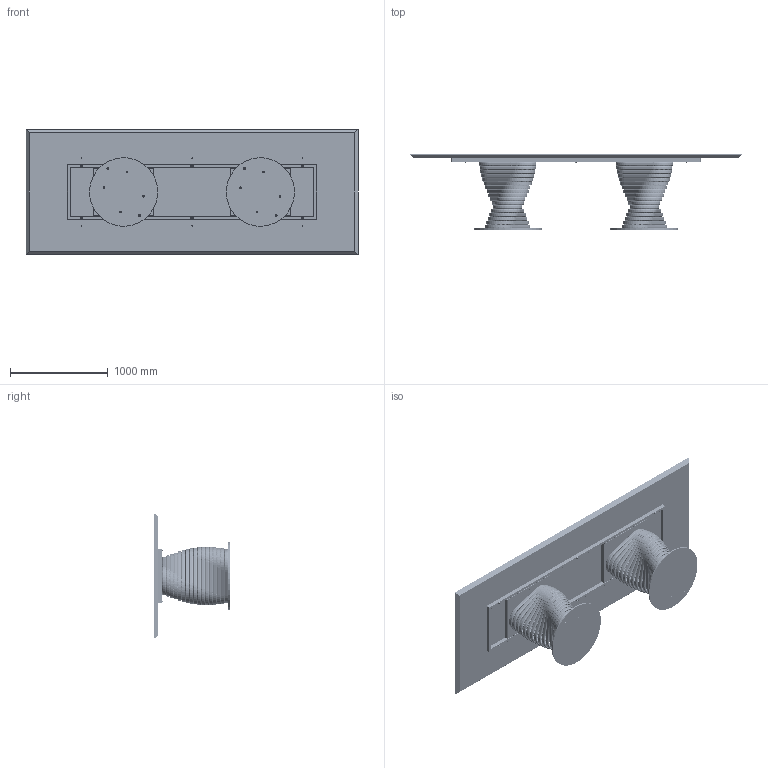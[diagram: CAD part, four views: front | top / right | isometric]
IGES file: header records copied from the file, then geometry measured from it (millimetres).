
Start section: SolidWorks IGES file using analytic representation for surfaces
Global section: file name: Y:\eforma\TECNICO\SOLIDWORKS\E-FORMA\1-TAVOLI\ROTOLO\02 parts\RO26W.IGS; native system: SolidWorks 2022; preprocessor: SolidWorks 2022; author: eforma.tech; date: 240807.151937; units: millimetre
Bounding box: 3400 x 770 x 1280 mm (x, y, z)
Volume: 183333902.2 mm3; surface area: 23421890.7 mm2
Topology: 182 solids, 182 shells, 3072 faces, 7232 edges, 4460 vertices
Faces by surface type: revolution 1834, plane 1238
